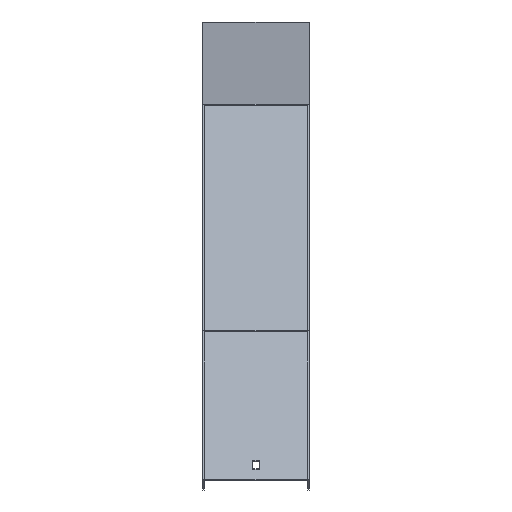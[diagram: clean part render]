
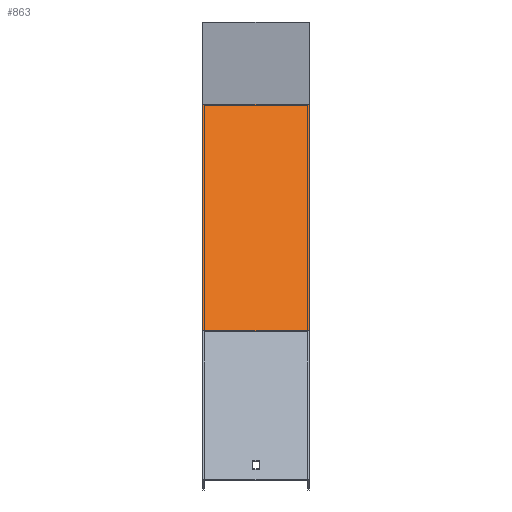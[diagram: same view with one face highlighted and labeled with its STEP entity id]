
A CAD part, top view. The second image highlights one B-rep face of the part: STEP entity #863.
In plain terms, the highlighted planar face has unit normal (0, 0.707, 0.707).
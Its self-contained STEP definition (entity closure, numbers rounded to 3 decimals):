
#4 = FACE_OUTER_BOUND ( 'NONE', #916, .T. ) ;
#13 = CARTESIAN_POINT ( 'NONE',  ( 51.5, -64.28, 470.818 ) ) ;
#14 = VERTEX_POINT ( 'NONE', #551 ) ;
#22 = DIRECTION ( 'NONE',  ( -1., 0., 0. ) ) ;
#34 = VERTEX_POINT ( 'NONE', #612 ) ;
#125 = ORIENTED_EDGE ( 'NONE', *, *, #874, .F. ) ;
#168 = EDGE_CURVE ( 'NONE', #14, #347, #351, .T. ) ;
#171 = DIRECTION ( 'NONE',  ( 0., -0.707, -0.707 ) ) ;
#280 = DIRECTION ( 'NONE',  ( -1., 0., 0. ) ) ;
#317 = VERTEX_POINT ( 'NONE', #498 ) ;
#327 = EDGE_CURVE ( 'NONE', #317, #14, #935, .T. ) ;
#347 = VERTEX_POINT ( 'NONE', #372 ) ;
#350 = DIRECTION ( 'NONE',  ( 0., -0.707, 0.707 ) ) ;
#351 = LINE ( 'NONE', #360, #709 ) ;
#360 = CARTESIAN_POINT ( 'NONE',  ( -51.5, -64.28, 470.818 ) ) ;
#372 = CARTESIAN_POINT ( 'NONE',  ( -51.5, -280.395, 686.933 ) ) ;
#403 = VECTOR ( 'NONE', #22, 1000. ) ;
#467 = CARTESIAN_POINT ( 'NONE',  ( 51.5, -60.491, 467.028 ) ) ;
#470 = LINE ( 'NONE', #774, #813 ) ;
#495 = AXIS2_PLACEMENT_3D ( 'NONE', #13, #171, #623 ) ;
#498 = CARTESIAN_POINT ( 'NONE',  ( 51.5, -60.491, 467.028 ) ) ;
#509 = LINE ( 'NONE', #809, #727 ) ;
#551 = CARTESIAN_POINT ( 'NONE',  ( -51.5, -60.491, 467.028 ) ) ;
#559 = ORIENTED_EDGE ( 'NONE', *, *, #714, .F. ) ;
#581 = ORIENTED_EDGE ( 'NONE', *, *, #168, .T. ) ;
#612 = CARTESIAN_POINT ( 'NONE',  ( 51.5, -280.395, 686.933 ) ) ;
#623 = DIRECTION ( 'NONE',  ( 0., 0.707, -0.707 ) ) ;
#709 = VECTOR ( 'NONE', #748, 1000. ) ;
#714 = EDGE_CURVE ( 'NONE', #317, #34, #509, .T. ) ;
#727 = VECTOR ( 'NONE', #350, 1000. ) ;
#748 = DIRECTION ( 'NONE',  ( 0., -0.707, 0.707 ) ) ;
#774 = CARTESIAN_POINT ( 'NONE',  ( 51.5, -280.395, 686.933 ) ) ;
#802 = ORIENTED_EDGE ( 'NONE', *, *, #327, .T. ) ;
#809 = CARTESIAN_POINT ( 'NONE',  ( 51.5, -64.28, 470.818 ) ) ;
#813 = VECTOR ( 'NONE', #280, 1000. ) ;
#853 = PLANE ( 'NONE',  #495 ) ;
#863 = ADVANCED_FACE ( 'NONE', ( #4 ), #853, .F. ) ;
#874 = EDGE_CURVE ( 'NONE', #34, #347, #470, .T. ) ;
#916 = EDGE_LOOP ( 'NONE', ( #581, #125, #559, #802 ) ) ;
#935 = LINE ( 'NONE', #467, #403 ) ;
